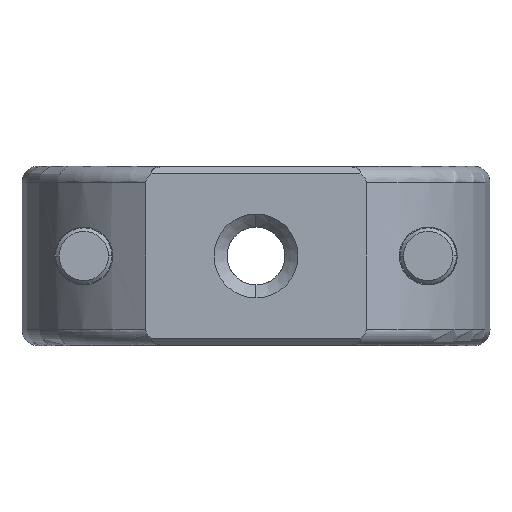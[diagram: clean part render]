
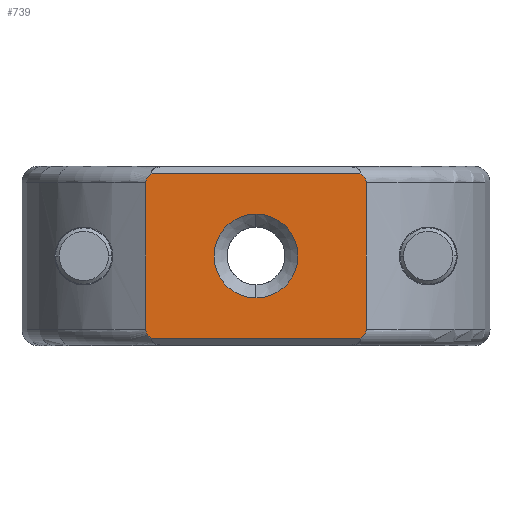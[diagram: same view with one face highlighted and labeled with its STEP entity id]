
A CAD part, front view. The second image highlights one B-rep face of the part: STEP entity #739.
In plain terms, the highlighted planar face has unit normal (0, -1, 0).
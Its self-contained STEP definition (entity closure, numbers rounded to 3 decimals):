
#56 = ORIENTED_EDGE ( 'NONE', *, *, #1889, .F. ) ;
#81 = DIRECTION ( 'NONE',  ( 0., 0., -1. ) ) ;
#82 = DIRECTION ( 'NONE',  ( 0., -1., 0. ) ) ;
#117 = EDGE_CURVE ( 'NONE', #3984, #3268, #3819, .T. ) ;
#246 = LINE ( 'NONE', #3620, #3454 ) ;
#294 = ORIENTED_EDGE ( 'NONE', *, *, #1296, .F. ) ;
#295 = CARTESIAN_POINT ( 'NONE',  ( 8., -15., 11.83 ) ) ;
#367 = CARTESIAN_POINT ( 'NONE',  ( -8., -15., 1.17 ) ) ;
#371 = VERTEX_POINT ( 'NONE', #295 ) ;
#458 = CARTESIAN_POINT ( 'NONE',  ( 8., -15., 1.17 ) ) ;
#478 = CARTESIAN_POINT ( 'NONE',  ( 7.542, -15., 12.5 ) ) ;
#479 = CARTESIAN_POINT ( 'NONE',  ( 8., -15., 0.931 ) ) ;
#483 = B_SPLINE_CURVE_WITH_KNOTS ( 'NONE', 3,
 ( #478, #1430, #763, #487 ),
 .UNSPECIFIED., .F., .F.,
 ( 4, 4 ),
 ( 0., 1. ),
 .UNSPECIFIED. ) ;
#487 = CARTESIAN_POINT ( 'NONE',  ( 8., -15., 11.83 ) ) ;
#495 = AXIS2_PLACEMENT_3D ( 'NONE', #2885, #82, #3144 ) ;
#512 = CARTESIAN_POINT ( 'NONE',  ( -8., -15., 11.83 ) ) ;
#602 = DIRECTION ( 'NONE',  ( 0., 0., -1. ) ) ;
#681 = CARTESIAN_POINT ( 'NONE',  ( -7.542, -15., 0.5 ) ) ;
#682 = CIRCLE ( 'NONE', #495, 3.046 ) ;
#689 = DIRECTION ( 'NONE',  ( -1., 0., 0. ) ) ;
#708 = EDGE_LOOP ( 'NONE', ( #1375, #294 ) ) ;
#739 = ADVANCED_FACE ( 'NONE', ( #3010, #1559 ), #2646, .T. ) ;
#763 = CARTESIAN_POINT ( 'NONE',  ( 8., -15., 12.069 ) ) ;
#803 = CARTESIAN_POINT ( 'NONE',  ( -8., -15., 12.069 ) ) ;
#823 = CARTESIAN_POINT ( 'NONE',  ( -8., -15., 0.931 ) ) ;
#874 = VECTOR ( 'NONE', #689, 1000. ) ;
#990 = CARTESIAN_POINT ( 'NONE',  ( -8., -15., 11.83 ) ) ;
#1106 = CARTESIAN_POINT ( 'NONE',  ( 7.843, -15., 0.694 ) ) ;
#1195 = EDGE_CURVE ( 'NONE', #371, #1996, #246, .T. ) ;
#1249 = VERTEX_POINT ( 'NONE', #1669 ) ;
#1260 = DIRECTION ( 'NONE',  ( 1., 0., 0. ) ) ;
#1296 = EDGE_CURVE ( 'NONE', #3769, #1799, #682, .T. ) ;
#1351 = LINE ( 'NONE', #1549, #1826 ) ;
#1372 = CARTESIAN_POINT ( 'NONE',  ( 7.542, -15., 0.5 ) ) ;
#1375 = ORIENTED_EDGE ( 'NONE', *, *, #2352, .F. ) ;
#1430 = CARTESIAN_POINT ( 'NONE',  ( 7.843, -15., 12.306 ) ) ;
#1525 = VERTEX_POINT ( 'NONE', #2113 ) ;
#1529 = ORIENTED_EDGE ( 'NONE', *, *, #117, .T. ) ;
#1549 = CARTESIAN_POINT ( 'NONE',  ( -8., -15., 13. ) ) ;
#1552 = LINE ( 'NONE', #1623, #874 ) ;
#1559 = FACE_BOUND ( 'NONE', #708, .T. ) ;
#1623 = CARTESIAN_POINT ( 'NONE',  ( 8., -15., 12.5 ) ) ;
#1669 = CARTESIAN_POINT ( 'NONE',  ( -7.542, -15., 12.5 ) ) ;
#1694 = CARTESIAN_POINT ( 'NONE',  ( -7.542, -15., 12.5 ) ) ;
#1749 = ORIENTED_EDGE ( 'NONE', *, *, #2797, .F. ) ;
#1793 = DIRECTION ( 'NONE',  ( 0., -1., 0. ) ) ;
#1799 = VERTEX_POINT ( 'NONE', #2502 ) ;
#1800 = B_SPLINE_CURVE_WITH_KNOTS ( 'NONE', 3,
 ( #2955, #3328, #823, #3645 ),
 .UNSPECIFIED., .F., .F.,
 ( 4, 4 ),
 ( 0., 1. ),
 .UNSPECIFIED. ) ;
#1826 = VECTOR ( 'NONE', #602, 1000. ) ;
#1867 = VERTEX_POINT ( 'NONE', #990 ) ;
#1889 = EDGE_CURVE ( 'NONE', #3984, #3269, #1800, .T. ) ;
#1894 = ORIENTED_EDGE ( 'NONE', *, *, #3577, .F. ) ;
#1976 = EDGE_LOOP ( 'NONE', ( #3029, #3486, #1749, #3476, #56, #1529, #1894, #2544 ) ) ;
#1978 = EDGE_CURVE ( 'NONE', #1525, #371, #483, .T. ) ;
#1996 = VERTEX_POINT ( 'NONE', #3621 ) ;
#2113 = CARTESIAN_POINT ( 'NONE',  ( 7.542, -15., 12.5 ) ) ;
#2235 = CARTESIAN_POINT ( 'NONE',  ( 0., -15., 6.5 ) ) ;
#2338 = B_SPLINE_CURVE_WITH_KNOTS ( 'NONE', 3,
 ( #512, #803, #2693, #1694 ),
 .UNSPECIFIED., .F., .F.,
 ( 4, 4 ),
 ( 0., 1. ),
 .UNSPECIFIED. ) ;
#2352 = EDGE_CURVE ( 'NONE', #1799, #3769, #3452, .T. ) ;
#2502 = CARTESIAN_POINT ( 'NONE',  ( 0., -15., 9.546 ) ) ;
#2544 = ORIENTED_EDGE ( 'NONE', *, *, #1195, .F. ) ;
#2587 = AXIS2_PLACEMENT_3D ( 'NONE', #3951, #1793, #3061 ) ;
#2629 = AXIS2_PLACEMENT_3D ( 'NONE', #2235, #3854, #81 ) ;
#2637 = EDGE_CURVE ( 'NONE', #1525, #1249, #1552, .T. ) ;
#2646 = PLANE ( 'NONE',  #2587 ) ;
#2693 = CARTESIAN_POINT ( 'NONE',  ( -7.843, -15., 12.306 ) ) ;
#2736 = CARTESIAN_POINT ( 'NONE',  ( 0., -15., 3.454 ) ) ;
#2797 = EDGE_CURVE ( 'NONE', #1867, #1249, #2338, .T. ) ;
#2843 = CARTESIAN_POINT ( 'NONE',  ( 7.542, -15., 0.5 ) ) ;
#2885 = CARTESIAN_POINT ( 'NONE',  ( 0., -15., 6.5 ) ) ;
#2955 = CARTESIAN_POINT ( 'NONE',  ( -7.542, -15., 0.5 ) ) ;
#2968 = VECTOR ( 'NONE', #1260, 1000. ) ;
#2997 = B_SPLINE_CURVE_WITH_KNOTS ( 'NONE', 3,
 ( #458, #479, #1106, #1372 ),
 .UNSPECIFIED., .F., .F.,
 ( 4, 4 ),
 ( 0., 1. ),
 .UNSPECIFIED. ) ;
#3010 = FACE_OUTER_BOUND ( 'NONE', #1976, .T. ) ;
#3029 = ORIENTED_EDGE ( 'NONE', *, *, #1978, .F. ) ;
#3061 = DIRECTION ( 'NONE',  ( 0., 0., -1. ) ) ;
#3121 = CARTESIAN_POINT ( 'NONE',  ( 8., -15., 0.5 ) ) ;
#3144 = DIRECTION ( 'NONE',  ( 0., 0., -1. ) ) ;
#3268 = VERTEX_POINT ( 'NONE', #2843 ) ;
#3269 = VERTEX_POINT ( 'NONE', #367 ) ;
#3328 = CARTESIAN_POINT ( 'NONE',  ( -7.843, -15., 0.694 ) ) ;
#3409 = DIRECTION ( 'NONE',  ( 0., 0., -1. ) ) ;
#3452 = CIRCLE ( 'NONE', #2629, 3.046 ) ;
#3454 = VECTOR ( 'NONE', #3409, 1000. ) ;
#3476 = ORIENTED_EDGE ( 'NONE', *, *, #3853, .T. ) ;
#3486 = ORIENTED_EDGE ( 'NONE', *, *, #2637, .T. ) ;
#3577 = EDGE_CURVE ( 'NONE', #1996, #3268, #2997, .T. ) ;
#3620 = CARTESIAN_POINT ( 'NONE',  ( 8., -15., 13. ) ) ;
#3621 = CARTESIAN_POINT ( 'NONE',  ( 8., -15., 1.17 ) ) ;
#3645 = CARTESIAN_POINT ( 'NONE',  ( -8., -15., 1.17 ) ) ;
#3769 = VERTEX_POINT ( 'NONE', #2736 ) ;
#3819 = LINE ( 'NONE', #3121, #2968 ) ;
#3853 = EDGE_CURVE ( 'NONE', #1867, #3269, #1351, .T. ) ;
#3854 = DIRECTION ( 'NONE',  ( 0., -1., 0. ) ) ;
#3951 = CARTESIAN_POINT ( 'NONE',  ( 8., -15., 13. ) ) ;
#3984 = VERTEX_POINT ( 'NONE', #681 ) ;
